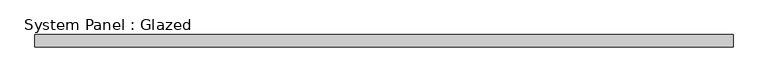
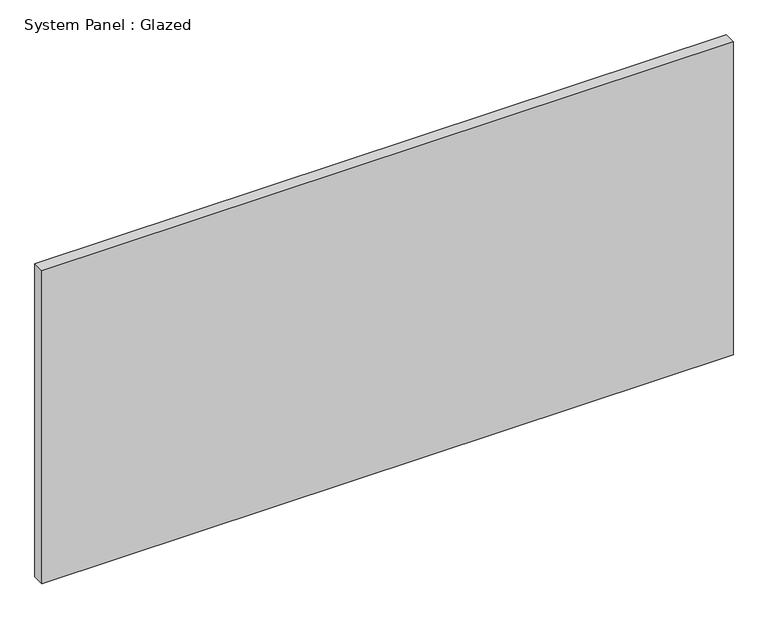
"""IFC4 building model written with IfcOpenShell, lengths in millimetres: plate geometry, System Panel : Glazed."""

import ifcopenshell
import ifcopenshell.guid

model = None  # the IFC model being written
_history = None  # IfcOwnerHistory: only IFC2X3 demands one
_inside = {}  # id of a spatial element -> (the spatial element, [elements in it])
_under = {}  # id of a project, library or spatial element -> (it, [spatial elements below it])
_declared = {}  # id of a project -> (the project, [libraries it declares])
_typed = {}  # id of a type object -> (the type object, [elements of that type])
_made_of = {}  # id of a material, layer set ... -> (it, [elements and type objects made of it])


def new_model(schema):
    """Start an empty IFC model of exactly this schema.

    Asked for "IFC4X3", IfcOpenShell would pick the latest addendum, in which some entities
    have other attributes; the version numbers below select the first issue.
    IFC2X3 requires an IfcOwnerHistory on every rooted entity: one is made here for all.
    """
    global model, _history
    if schema == "IFC4X3":
        model = ifcopenshell.file(schema_version=(4, 3, 0, 0))
    else:
        model = ifcopenshell.file(schema=schema)
    _inside.clear()
    _under.clear()
    _declared.clear()
    _typed.clear()
    _made_of.clear()
    _history = None
    if model.schema == "IFC2X3":
        org = make("IfcOrganization", Name="unknown")
        user = make(
            "IfcPersonAndOrganization",
            ThePerson=make("IfcPerson", FamilyName="unknown"),
            TheOrganization=org,
        )
        app = make(
            "IfcApplication",
            ApplicationDeveloper=org,
            Version="unknown",
            ApplicationFullName="unknown",
            ApplicationIdentifier="unknown",
        )
        _history = make(
            "IfcOwnerHistory",
            OwningUser=user,
            OwningApplication=app,
            ChangeAction="ADDED",
            CreationDate=0,
        )
    return model


def make(cls, **values):
    """One entity of the class cls with the attributes given. An attribute that is None is left unset."""
    return model.create_entity(
        cls, **{name: value for name, value in values.items() if value is not None}
    )


def rooted(cls, **values):
    """An entity with a GlobalId (a new one), such as an element, a storey or a relation."""
    return make(cls, GlobalId=ifcopenshell.guid.new(), OwnerHistory=_history, **values)


def si_unit(unit_type, name, prefix=None):
    """IfcSIUnit, for example si_unit("LENGTHUNIT", "METRE", prefix="MILLI")."""
    return make("IfcSIUnit", UnitType=unit_type, Prefix=prefix, Name=name)


def assignment(units):
    """IfcUnitAssignment: the units of a project."""
    return None if units is None else make("IfcUnitAssignment", Units=units)


def point(xyz):
    """IfcCartesianPoint."""
    return None if xyz is None else make("IfcCartesianPoint", Coordinates=xyz)


def direction(xyz):
    """IfcDirection."""
    return None if xyz is None else make("IfcDirection", DirectionRatios=xyz)


def frame(location, z_axis=None, x_axis=None):
    """IfcAxis2Placement3D, a coordinate frame: its origin and axes. An axis left out is left unset."""
    return make(
        "IfcAxis2Placement3D",
        Location=point(location),
        Axis=direction(z_axis),
        RefDirection=direction(x_axis),
    )


def origin():
    """The frame at (0, 0, 0) with its axes left unset."""
    return frame((0.0, 0.0, 0.0))


def origin_with_axes():
    """The frame at (0, 0, 0) with the z axis (0, 0, 1) and the x axis (1, 0, 0) written out."""
    return frame((0.0, 0.0, 0.0), z_axis=(0.0, 0.0, 1.0), x_axis=(1.0, 0.0, 0.0))


def place(relative_to, where):
    """IfcLocalPlacement: puts the frame where relative to a parent placement (None: the world)."""
    return make(
        "IfcLocalPlacement", PlacementRelTo=relative_to, RelativePlacement=where
    )


def context(
    kind, dimensions, precision=None, world=None, true_north=None, identifier=None
):
    """IfcGeometricRepresentationContext, for example the 3D "Model" context."""
    return make(
        "IfcGeometricRepresentationContext",
        ContextIdentifier=identifier,
        ContextType=kind,
        CoordinateSpaceDimension=dimensions,
        Precision=precision,
        WorldCoordinateSystem=world,
        TrueNorth=true_north,
    )


def project(units=None, contexts=None):
    """IfcProject with its units and contexts."""
    return rooted(
        "IfcProject",
        Name="project",
        RepresentationContexts=contexts,
        UnitsInContext=assignment(units),
    )


def spatial(cls, under=None, at=None, **own):
    """A site, building, storey or space (cls), placed at a placement, below another one or the project."""
    s = rooted(cls, ObjectPlacement=at, **own)
    if under is not None:
        _under.setdefault(under.id(), (under, []))[1].append(s)
    return s


def polyline(points):
    """IfcPolyline through the points."""
    return make("IfcPolyline", Points=[point(p) for p in points])


def outline(outer, holes=None, kind="AREA"):
    """IfcArbitraryClosedProfileDef: a profile drawn as a closed curve; with holes, ...WithVoids."""
    if holes is None:
        return make("IfcArbitraryClosedProfileDef", ProfileType=kind, OuterCurve=outer)
    return make(
        "IfcArbitraryProfileDefWithVoids",
        ProfileType=kind,
        OuterCurve=outer,
        InnerCurves=holes,
    )


def extrude(swept, where, along, depth):
    """IfcExtrudedAreaSolid: the profile swept, set in the frame where, extruded along a direction by depth."""
    return make(
        "IfcExtrudedAreaSolid",
        SweptArea=swept,
        Position=where,
        ExtrudedDirection=direction(along),
        Depth=depth,
    )


def shape(context_of_items, identifier, shape_type, items):
    """IfcShapeRepresentation: the items that make up one representation, for example the "Body"."""
    return make(
        "IfcShapeRepresentation",
        ContextOfItems=context_of_items,
        RepresentationIdentifier=identifier,
        RepresentationType=shape_type,
        Items=items,
    )


def source(mapping_origin, context_of_items, identifier, shape_type, items):
    """IfcRepresentationMap: a shape defined once, which mapped items show again and again."""
    return make(
        "IfcRepresentationMap",
        MappingOrigin=mapping_origin,
        MappedRepresentation=shape(context_of_items, identifier, shape_type, items),
    )


def transform(
    local_origin,
    x_axis=None,
    y_axis=None,
    z_axis=None,
    scale=None,
    scale2=None,
    scale3=None,
    uniform=True,
):
    """IfcCartesianTransformationOperator3D, or its non-uniform kind. x_axis, y_axis, z_axis: its Axis1, 2, 3."""
    if uniform:
        return make(
            "IfcCartesianTransformationOperator3D",
            Axis1=direction(x_axis),
            Axis2=direction(y_axis),
            LocalOrigin=point(local_origin),
            Scale=scale,
            Axis3=direction(z_axis),
        )
    return make(
        "IfcCartesianTransformationOperator3DnonUniform",
        Axis1=direction(x_axis),
        Axis2=direction(y_axis),
        LocalOrigin=point(local_origin),
        Scale=scale,
        Axis3=direction(z_axis),
        Scale2=scale2,
        Scale3=scale3,
    )


def mapped(mapping_source, mapping_target):
    """IfcMappedItem: shows the shape of a source again, moved by a transform."""
    return make(
        "IfcMappedItem", MappingSource=mapping_source, MappingTarget=mapping_target
    )


def made_of(thing, what):
    """Note that an element or type object is made of a material, layer set ...; save() writes the relation."""
    if what is not None:
        _made_of.setdefault(what.id(), (what, []))[1].append(thing)
    return thing


def element(
    cls,
    number,
    at=None,
    inside=None,
    cuts=None,
    type_object=None,
    material=None,
    context=None,
    identifier="Body",
    shape_type=None,
    held_by="IfcProductDefinitionShape",
    body=None,
    shapes=None,
    **own,
):
    """One element of the class cls, such as IfcWall. Its Tag is "e" and its number.

    at: its placement. inside: the storey or other place that contains it. cuts: it is an
    opening in that element (IfcRelVoidsElement). A single representation is given by context,
    identifier, shape_type and body (its items); several are given by shapes. held_by: the class
    of the entity that holds the representations. save() writes the other relations.
    """
    e = rooted(cls, Tag="e%d" % number, ObjectPlacement=at, **own)
    if body is not None:
        shapes = [shape(context, identifier, shape_type, body)]
    if shapes is not None:
        e.Representation = make(held_by, Representations=shapes)
    if inside is not None:
        _inside.setdefault(inside.id(), (inside, []))[1].append(e)
    if cuts is not None:
        rooted(
            "IfcRelVoidsElement", RelatingBuildingElement=cuts, RelatedOpeningElement=e
        )
    if type_object is not None:
        _typed.setdefault(type_object.id(), (type_object, []))[1].append(e)
    return made_of(e, material)


def aggregate(whole, parts):
    """IfcRelAggregates: a whole, such as a stair, and the parts it consists of."""
    return rooted("IfcRelAggregates", RelatingObject=whole, RelatedObjects=parts)


def save(model, path):
    """Write the relations noted so far, then the file.

    IfcRelAggregates (storeys below a building ...), IfcRelContainedInSpatialStructure (elements
    in a storey), IfcRelDefinesByType, IfcRelAssociatesMaterial and IfcRelDeclares: one each for
    every whole, place, type object, material and project.
    """
    for whole, parts in _under.values():
        aggregate(whole, parts)
    for where, things in _inside.values():
        rooted(
            "IfcRelContainedInSpatialStructure",
            RelatedElements=things,
            RelatingStructure=where,
        )
    for kind, things in _typed.values():
        rooted("IfcRelDefinesByType", RelatedObjects=things, RelatingType=kind)
    for what, things in _made_of.values():
        rooted("IfcRelAssociatesMaterial", RelatedObjects=things, RelatingMaterial=what)
    for by, libraries in _declared.values():
        rooted("IfcRelDeclares", RelatingContext=by, RelatedDefinitions=libraries)
    model.write(path)


def system_panel_glazed_38f416ca(model_context):
    return source(origin(), model_context, "Body", "SweptSolid", [
        extrude(outline(polyline([(723.1944444, 19.05), (-723.1944444, 19.05), (-723.1944444, 44.45), (723.1944444, 44.45), (723.1944444, 19.05)])), origin_with_axes(), (0.0, 0.0, 1.0), 692.15),
    ])


if __name__ == "__main__":
    model = new_model("IFC4")
    model_context = context("Model", 3, world=origin())
    ifc_project = project(units=[si_unit("LENGTHUNIT", "METRE", prefix="MILLI")], contexts=[model_context])
    site = spatial("IfcSite", under=ifc_project)
    building = spatial("IfcBuilding", under=site)
    placement = place(None, origin())
    system_panel_glazed_shape = system_panel_glazed_38f416ca(model_context)
    element("IfcPlate", 1, ObjectType="System Panel : Glazed", at=placement, inside=building, context=model_context, shape_type="MappedRepresentation", body=[
        mapped(system_panel_glazed_shape, transform((0.0, 0.0, 0.0), x_axis=(1.0, 0.0, 0.0), y_axis=(0.0, 1.0, 0.0), z_axis=(0.0, 0.0, 1.0))),
    ])
    save(model, "model.ifc")
